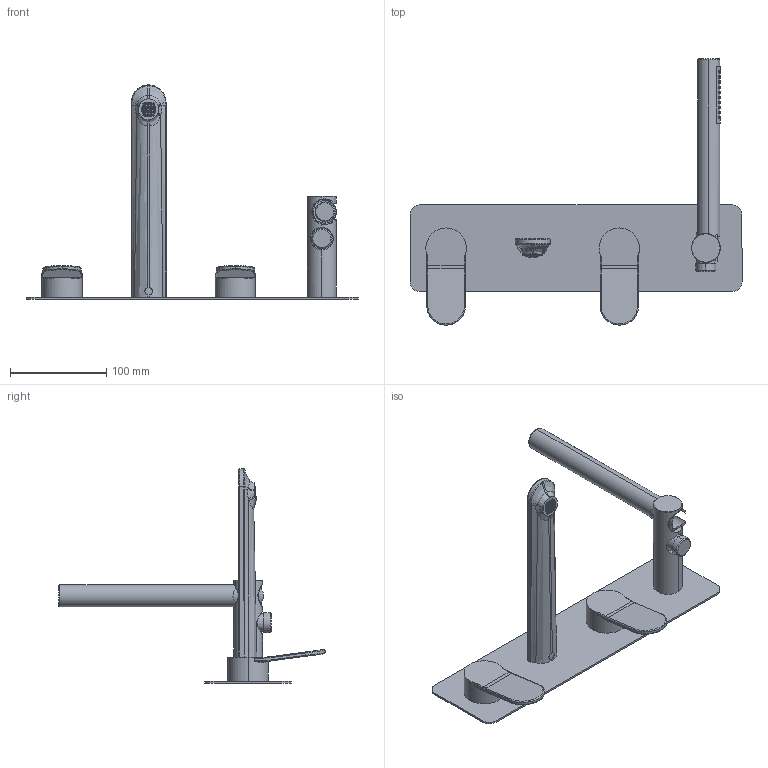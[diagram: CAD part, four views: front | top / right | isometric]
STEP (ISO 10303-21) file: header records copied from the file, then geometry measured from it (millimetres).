
FILE_DESCRIPTION (( 'STEP AP214' ), '1' );
FILE_NAME ('82139710 x architetti.STEP', '2025-01-14T16:03:08', ( '' ), ( '' ), 'SwSTEP 2.0', 'SolidWorks 2020', '' );
FILE_SCHEMA (( 'AUTOMOTIVE_DESIGN' ));
Length unit declared in the file: millimetre
Products named in the file (1): 82139710 x architetti
Bounding box: 345 x 276.52 x 222.5 mm (x, y, z)
Volume: 398494.1 mm3; surface area: 136864.2 mm2
Topology: 3 solids, 8 shells, 1288 faces, 3008 edges, 1785 vertices
Faces by surface type: plane 589, cylinder 534, bspline 136, cone 20, torus 9
Entity records: 58662 total; most frequent: CARTESIAN_POINT 19276, ORIENTED_EDGE 6012, DIRECTION 4655, EDGE_CURVE 3006, VERTEX_POINT 1785, VECTOR 1681, LINE 1681, AXIS2_PLACEMENT_3D 1487
